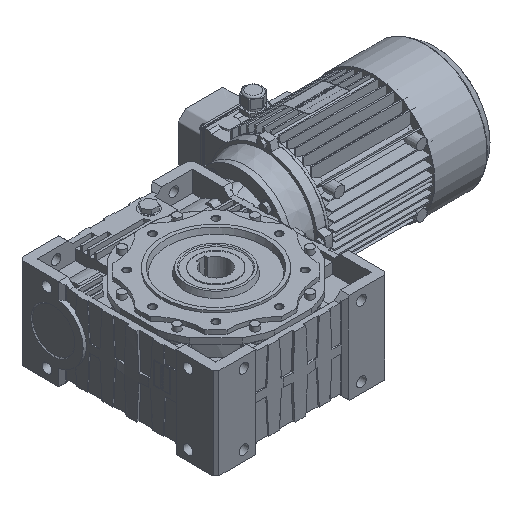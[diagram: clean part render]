
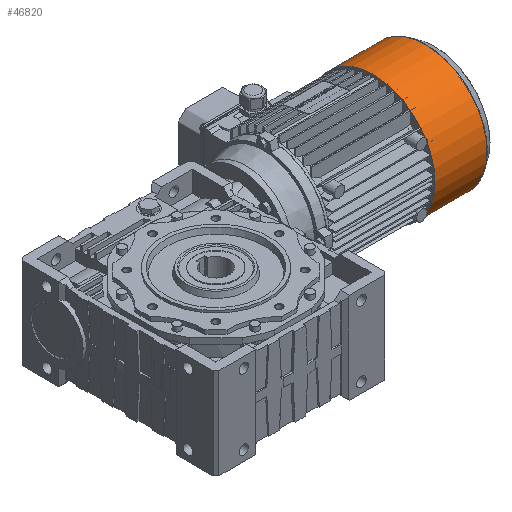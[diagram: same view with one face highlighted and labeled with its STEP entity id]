
A CAD part, isometric view. The second image highlights one B-rep face of the part: STEP entity #46820.
In plain terms, the highlighted cylindrical face has radius 105.2 mm (diameter 210.4 mm), a full revolution.
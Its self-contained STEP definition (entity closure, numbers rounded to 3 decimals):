
#2728=CIRCLE('',#51656,105.2);
#2729=CIRCLE('',#51658,105.2);
#3654=CYLINDRICAL_SURFACE('',#51657,105.2);
#17076=ORIENTED_EDGE('',*,*,#23868,.F.);
#17077=ORIENTED_EDGE('',*,*,#23867,.T.);
#23867=EDGE_CURVE('',#28424,#28424,#2728,.T.);
#23868=EDGE_CURVE('',#28425,#28425,#2729,.T.);
#28424=VERTEX_POINT('',#80311);
#28425=VERTEX_POINT('',#80314);
#39831=EDGE_LOOP('',(#17076));
#39832=EDGE_LOOP('',(#17077));
#42757=FACE_BOUND('',#39831,.T.);
#42758=FACE_BOUND('',#39832,.T.);
#46820=ADVANCED_FACE('',(#42757,#42758),#3654,.T.);
#51656=AXIS2_PLACEMENT_3D('',#80310,#65472,#65473);
#51657=AXIS2_PLACEMENT_3D('',#80312,#65474,#65475);
#51658=AXIS2_PLACEMENT_3D('',#80313,#65476,#65477);
#65472=DIRECTION('',(1.,0.,0.));
#65473=DIRECTION('',(0.,0.,-1.));
#65474=DIRECTION('',(1.,0.,0.));
#65475=DIRECTION('',(0.,0.,-1.));
#65476=DIRECTION('',(1.,0.,0.));
#65477=DIRECTION('',(0.,0.,-1.));
#80310=CARTESIAN_POINT('',(0.,0.,0.));
#80311=CARTESIAN_POINT('',(0.,0.,-105.2));
#80312=CARTESIAN_POINT('',(105.,0.,0.));
#80313=CARTESIAN_POINT('',(88.374,0.,0.));
#80314=CARTESIAN_POINT('',(88.374,0.,-105.2));
